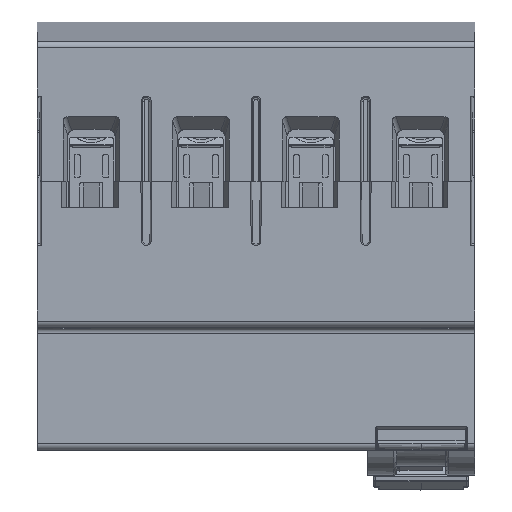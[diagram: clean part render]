
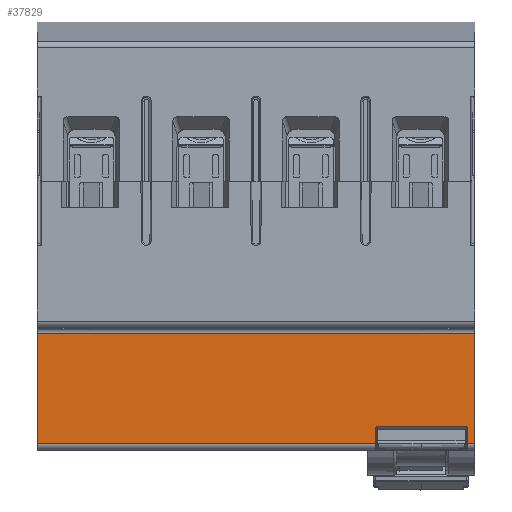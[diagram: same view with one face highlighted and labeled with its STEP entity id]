
A CAD part, top view. The second image highlights one B-rep face of the part: STEP entity #37829.
In plain terms, the highlighted planar face has unit normal (0, 0, 1).
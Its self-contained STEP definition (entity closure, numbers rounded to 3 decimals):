
#278=B_SPLINE_CURVE_WITH_KNOTS('',3,(#68735,#68736,#68737,#68738,#68739,
#68740,#68741,#68742,#68743,#68744,#68745,#68746,#68747),.UNSPECIFIED.,
 .F.,.F.,(4,3,3,3,4),(0.,0.193,0.582,0.942,
1.),.UNSPECIFIED.);
#337=B_SPLINE_CURVE_WITH_KNOTS('',3,(#74361,#74362,#74363,#74364,#74365,
#74366,#74367,#74368,#74369,#74370,#74371,#74372,#74373,#74374,#74375,#74376,
#74377,#74378,#74379,#74380,#74381,#74382,#74383,#74384,#74385,#74386,#74387,
#74388,#74389,#74390,#74391,#74392,#74393,#74394,#74395,#74396),
 .UNSPECIFIED.,.F.,.F.,(4,2,2,2,2,2,2,2,2,2,2,2,2,2,2,2,2,4),(0.,0.111,
0.226,0.342,0.448,0.5,0.549,
0.625,0.645,0.718,0.75,0.792,0.844,
0.865,0.875,0.908,0.954,1.),
 .UNSPECIFIED.);
#5957=ORIENTED_EDGE('',*,*,#16621,.T.);
#5958=ORIENTED_EDGE('',*,*,#16622,.T.);
#5959=ORIENTED_EDGE('',*,*,#16623,.T.);
#5960=ORIENTED_EDGE('',*,*,#14174,.T.);
#5961=ORIENTED_EDGE('',*,*,#15930,.T.);
#5962=ORIENTED_EDGE('',*,*,#16624,.F.);
#5963=ORIENTED_EDGE('',*,*,#14309,.F.);
#5964=ORIENTED_EDGE('',*,*,#14573,.T.);
#5965=ORIENTED_EDGE('',*,*,#16625,.T.);
#5966=ORIENTED_EDGE('',*,*,#16626,.F.);
#14174=EDGE_CURVE('',#19766,#19769,#278,.T.);
#14309=EDGE_CURVE('',#19902,#19903,#23416,.T.);
#14573=EDGE_CURVE('',#19902,#20154,#23607,.T.);
#15930=EDGE_CURVE('',#19769,#20272,#24669,.T.);
#16621=EDGE_CURVE('',#21820,#21821,#25190,.T.);
#16622=EDGE_CURVE('',#21821,#21822,#337,.T.);
#16623=EDGE_CURVE('',#21822,#19766,#25191,.T.);
#16624=EDGE_CURVE('',#19903,#20272,#25192,.T.);
#16625=EDGE_CURVE('',#20154,#21823,#25193,.T.);
#16626=EDGE_CURVE('',#21820,#21823,#25194,.T.);
#19766=VERTEX_POINT('',#68693);
#19769=VERTEX_POINT('',#68734);
#19902=VERTEX_POINT('',#69065);
#19903=VERTEX_POINT('',#69067);
#20154=VERTEX_POINT('',#69634);
#20272=VERTEX_POINT('',#69952);
#21820=VERTEX_POINT('',#74359);
#21821=VERTEX_POINT('',#74360);
#21822=VERTEX_POINT('',#74397);
#21823=VERTEX_POINT('',#74401);
#23416=LINE('',#69066,#27553);
#23607=LINE('',#69635,#27744);
#24669=LINE('',#72559,#28806);
#25190=LINE('',#74358,#29327);
#25191=LINE('',#74398,#29328);
#25192=LINE('',#74399,#29329);
#25193=LINE('',#74400,#29330);
#25194=LINE('',#74402,#29331);
#27553=VECTOR('',#57657,1000.);
#27744=VECTOR('',#58070,1000.);
#28806=VECTOR('',#60178,1000.);
#29327=VECTOR('',#61355,1000.);
#29328=VECTOR('',#61356,1000.);
#29329=VECTOR('',#61357,1000.);
#29330=VECTOR('',#61358,1000.);
#29331=VECTOR('',#61359,1000.);
#32049=EDGE_LOOP('',(#5957,#5958,#5959,#5960,#5961,#5962,#5963,#5964,#5965,
#5966));
#34280=FACE_BOUND('',#32049,.T.);
#36202=PLANE('',#54521);
#37829=ADVANCED_FACE('',(#34280),#36202,.T.);
#54521=AXIS2_PLACEMENT_3D('',#74357,#61353,#61354);
#57657=DIRECTION('',(0.,-1.,0.));
#58070=DIRECTION('',(-1.,0.,0.));
#60178=DIRECTION('',(0.,-1.,0.));
#61353=DIRECTION('',(0.,0.,1.));
#61354=DIRECTION('',(1.,0.,0.));
#61355=DIRECTION('',(0.,1.,0.));
#61356=DIRECTION('',(1.,0.,0.));
#61357=DIRECTION('',(-1.,0.,0.));
#61358=DIRECTION('',(0.,-1.,0.));
#61359=DIRECTION('',(-1.,0.,0.));
#68693=CARTESIAN_POINT('',(34.4,-66.359,22.8));
#68734=CARTESIAN_POINT('',(34.7,-66.783,22.8));
#68735=CARTESIAN_POINT('',(34.4,-66.359,22.8));
#68736=CARTESIAN_POINT('',(34.437,-66.359,22.8));
#68737=CARTESIAN_POINT('',(34.473,-66.369,22.8));
#68738=CARTESIAN_POINT('',(34.506,-66.386,22.8));
#68739=CARTESIAN_POINT('',(34.572,-66.42,22.8));
#68740=CARTESIAN_POINT('',(34.62,-66.483,22.8));
#68741=CARTESIAN_POINT('',(34.651,-66.551,22.8));
#68742=CARTESIAN_POINT('',(34.68,-66.613,22.8));
#68743=CARTESIAN_POINT('',(34.695,-66.681,22.8));
#68744=CARTESIAN_POINT('',(34.699,-66.749,22.8));
#68745=CARTESIAN_POINT('',(34.7,-66.76,22.8));
#68746=CARTESIAN_POINT('',(34.7,-66.772,22.8));
#68747=CARTESIAN_POINT('',(34.7,-66.783,22.8));
#69065=CARTESIAN_POINT('',(35.9,-51.1,22.8));
#69066=CARTESIAN_POINT('',(35.9,-63.2,22.8));
#69067=CARTESIAN_POINT('',(35.9,-69.2,22.8));
#69634=CARTESIAN_POINT('',(-35.9,-51.1,22.8));
#69635=CARTESIAN_POINT('',(-35.913,-51.1,22.8));
#69952=CARTESIAN_POINT('',(34.7,-69.2,22.8));
#72559=CARTESIAN_POINT('',(34.7,-66.669,22.8));
#74357=CARTESIAN_POINT('',(-35.9,-50.1,22.8));
#74358=CARTESIAN_POINT('',(19.6,-69.215,22.8));
#74359=CARTESIAN_POINT('',(19.6,-69.2,22.8));
#74360=CARTESIAN_POINT('',(19.6,-66.783,22.8));
#74361=CARTESIAN_POINT('',(19.6,-66.783,22.8));
#74362=CARTESIAN_POINT('',(19.6,-66.762,22.8));
#74363=CARTESIAN_POINT('',(19.601,-66.742,22.8));
#74364=CARTESIAN_POINT('',(19.605,-66.7,22.8));
#74365=CARTESIAN_POINT('',(19.609,-66.679,22.8));
#74366=CARTESIAN_POINT('',(19.618,-66.637,22.8));
#74367=CARTESIAN_POINT('',(19.623,-66.617,22.8));
#74368=CARTESIAN_POINT('',(19.637,-66.578,22.8));
#74369=CARTESIAN_POINT('',(19.645,-66.559,22.8));
#74370=CARTESIAN_POINT('',(19.658,-66.533,22.8));
#74371=CARTESIAN_POINT('',(19.662,-66.524,22.8));
#74372=CARTESIAN_POINT('',(19.672,-66.508,22.8));
#74373=CARTESIAN_POINT('',(19.676,-66.5,22.8));
#74374=CARTESIAN_POINT('',(19.69,-66.48,22.8));
#74375=CARTESIAN_POINT('',(19.699,-66.468,22.8));
#74376=CARTESIAN_POINT('',(19.71,-66.454,22.8));
#74377=CARTESIAN_POINT('',(19.713,-66.451,22.8));
#74378=CARTESIAN_POINT('',(19.725,-66.438,22.8));
#74379=CARTESIAN_POINT('',(19.735,-66.428,22.8));
#74380=CARTESIAN_POINT('',(19.75,-66.415,22.8));
#74381=CARTESIAN_POINT('',(19.755,-66.411,22.8));
#74382=CARTESIAN_POINT('',(19.766,-66.402,22.8));
#74383=CARTESIAN_POINT('',(19.773,-66.398,22.8));
#74384=CARTESIAN_POINT('',(19.79,-66.388,22.8));
#74385=CARTESIAN_POINT('',(19.799,-66.383,22.8));
#74386=CARTESIAN_POINT('',(19.812,-66.377,22.8));
#74387=CARTESIAN_POINT('',(19.816,-66.376,22.8));
#74388=CARTESIAN_POINT('',(19.822,-66.373,22.8));
#74389=CARTESIAN_POINT('',(19.824,-66.373,22.8));
#74390=CARTESIAN_POINT('',(19.832,-66.37,22.8));
#74391=CARTESIAN_POINT('',(19.839,-66.368,22.8));
#74392=CARTESIAN_POINT('',(19.853,-66.363,22.8));
#74393=CARTESIAN_POINT('',(19.863,-66.362,22.8));
#74394=CARTESIAN_POINT('',(19.881,-66.359,22.8));
#74395=CARTESIAN_POINT('',(19.891,-66.359,22.8));
#74396=CARTESIAN_POINT('',(19.9,-66.359,22.8));
#74397=CARTESIAN_POINT('',(19.9,-66.359,22.8));
#74398=CARTESIAN_POINT('',(19.887,-66.359,22.8));
#74399=CARTESIAN_POINT('',(35.916,-69.2,22.8));
#74400=CARTESIAN_POINT('',(-35.9,-38.15,22.8));
#74401=CARTESIAN_POINT('',(-35.9,-69.2,22.8));
#74402=CARTESIAN_POINT('',(35.916,-69.2,22.8));
